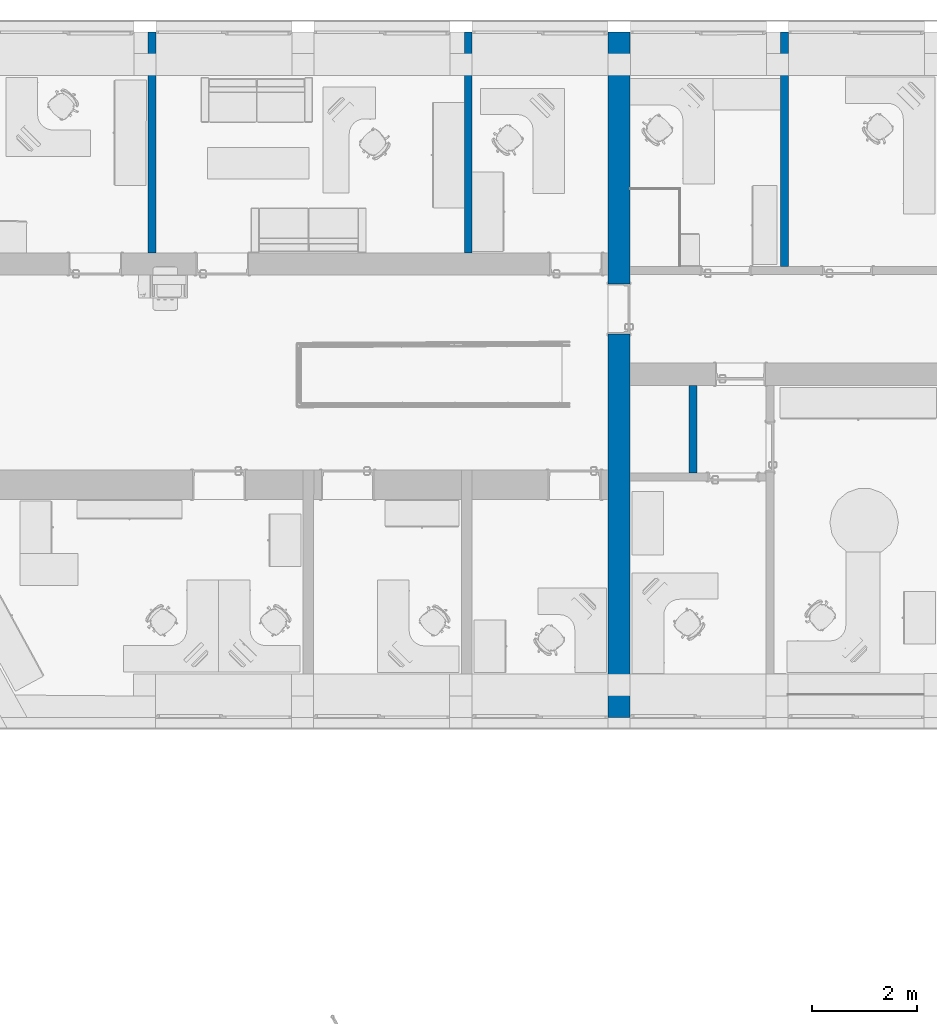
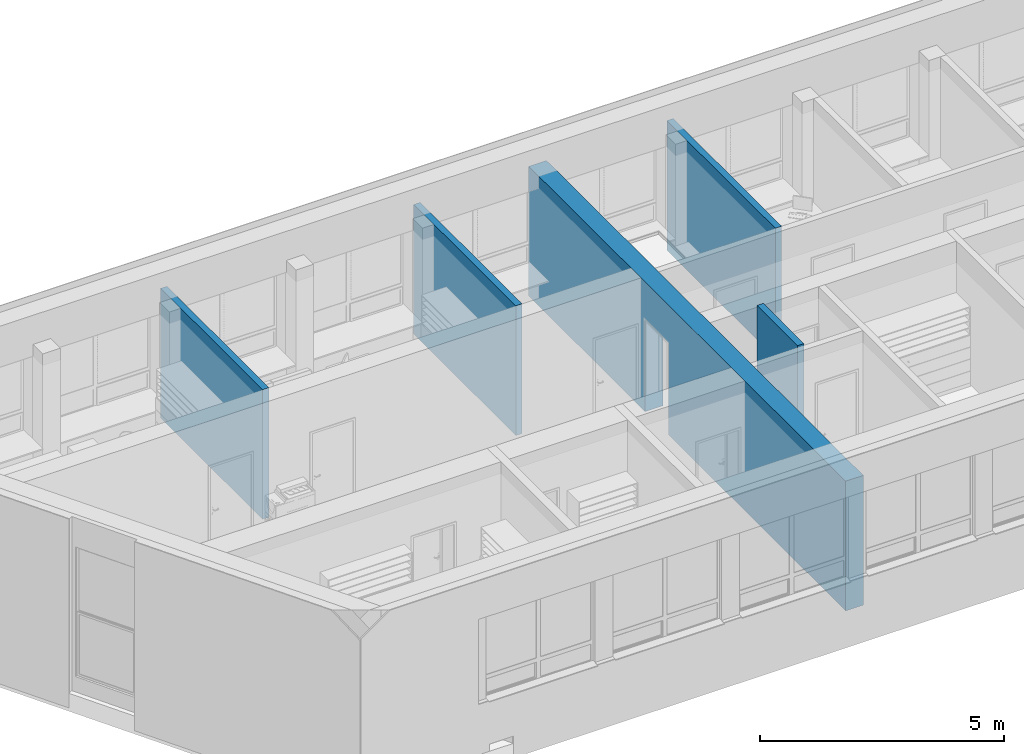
# One storey, part 29 of 194: 5 walls, 1 opening.
"""IFC2X3 building model written with IfcOpenShell, lengths in millimetres."""

from ifc_helpers import new_model, entity, si_unit, converted_unit, derived_unit, money_unit, direction, frame, origin_with_axes, origin_2d_with_axis, place, context, subcontext, project, spatial, polyline, rectangle, outline, extrude, material, layer, layer_set, layer_usage, type_object, element, save


model = new_model("IFC2X3")

# Units and contexts
model_context = context("Model", 3, precision=1e-05, world=origin_with_axes(), true_north=direction((0.0, 1.0)))
body_context = subcontext(model_context, "Body", "Model", "MODEL_VIEW")
ifc_project = project(units=[si_unit("LENGTHUNIT", "METRE", prefix="MILLI"), si_unit("AREAUNIT", "SQUARE_METRE"), si_unit("VOLUMEUNIT", "CUBIC_METRE"), converted_unit("PLANEANGLEUNIT", "DEGREE", entity("IfcPlaneAngleMeasure", 0.0174532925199), si_unit("PLANEANGLEUNIT", "RADIAN"), dimensions=[0, 0, 0, 0, 0, 0, 0]), si_unit("SOLIDANGLEUNIT", "STERADIAN"), money_unit("EUR"), converted_unit("TIMEUNIT", "Year", entity("IfcTimeMeasure", 31556926.0), si_unit("TIMEUNIT", "SECOND"), dimensions=[0, 0, 1, 0, 0, 0, 0]), si_unit("MASSUNIT", "GRAM", prefix="KILO"), si_unit("THERMODYNAMICTEMPERATUREUNIT", "DEGREE_CELSIUS"), si_unit("LUMINOUSINTENSITYUNIT", "LUMEN"), si_unit("ENERGYUNIT", "JOULE", prefix="MEGA"), derived_unit("THERMALCONDUCTANCEUNIT", [(si_unit("POWERUNIT", "WATT"), 1), (si_unit("LENGTHUNIT", "METRE"), -1), (si_unit("THERMODYNAMICTEMPERATUREUNIT", "KELVIN"), -1)]), derived_unit("SPECIFICHEATCAPACITYUNIT", [(si_unit("ENERGYUNIT", "JOULE"), 1), (si_unit("MASSUNIT", "GRAM", prefix="KILO"), -1), (si_unit("THERMODYNAMICTEMPERATUREUNIT", "KELVIN"), -1)]), derived_unit("MASSDENSITYUNIT", [(si_unit("MASSUNIT", "GRAM", prefix="KILO"), 1), (si_unit("VOLUMEUNIT", "CUBIC_METRE"), -1)])], contexts=[model_context])

# Site, building, storey
site_placement = place(None, origin_with_axes())
site = spatial("IfcSite", under=ifc_project, at=site_placement, Name="Site", CompositionType="ELEMENT")
building_placement = place(site_placement, origin_with_axes())
building = spatial("IfcBuilding", under=site, at=building_placement, Name="Building", CompositionType="ELEMENT")
storey_placement = place(building_placement, frame((0.0, 0.0, 3000.0), z_axis=(0.0, 0.0, 1.0), x_axis=(1.0, 0.0, 0.0)))
storey = spatial("IfcBuildingStorey", under=building, at=storey_placement, Name="2 KORRUS", CompositionType="ELEMENT", Elevation=3000.0)

# Wall, opening
ifc_material_1 = material(Name="Kivi -Ol.Olev Konstruktsioon")
ifc_layer_1 = layer(ifc_material_1, 420.0, ventilated="UNKNOWN")
ifc_layer_set_1 = layer_set([ifc_layer_1], Name="ol.olev ss 420")
ifc_layer_usage_1 = layer_usage(ifc_layer_set_1, "AXIS2", "NEGATIVE", 0.0)
wall_type = type_object("IfcWallType", Name="SW - 022", PredefinedType="NOTDEFINED")
wall_1_placement = place(storey_placement, frame((16157.2281674, 71917.3186821, 0.0), z_axis=(0.0, 0.0, 1.0), x_axis=(-2.03379014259e-07, -1.0, 0.0)))
wall_1 = element("IfcWallStandardCase", 1, at=wall_1_placement, inside=storey, type_object=wall_type, material=ifc_layer_usage_1, Name="ol.olev ss 420", context=body_context, shape_type="SweptSolid", body=[
    extrude(outline(polyline([(0.0, -420.0), (13011.3600933, -420.0), (13011.3600933, 0.0), (0.0, 0.0), (0.0, -420.0)])), origin_with_axes(), (0.0, 0.0, 1.0), 3250.0),
])
opening_placement = place(wall_1_placement, frame((5254.87826335, -1.13686837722e-10, 0.0), z_axis=(0.0, 0.0, 1.0), x_axis=(1.0, 0.0, 0.0)))
element("IfcOpeningElement", 2, at=opening_placement, cuts=wall_1, Name="Siseuks * Door 22", context=body_context, shape_type="SweptSolid", body=[
    extrude(rectangle(XDim=950.0, YDim=2300.0, at=origin_2d_with_axis()), frame((0.0, -420.0, 1150.0), z_axis=(0.0, -1.0, 0.0), x_axis=(-1.0, 0.0, 0.0)), (0.0, 0.0, -1.0), 1260.0),
    extrude(rectangle(XDim=1024.0, YDim=2337.0, at=origin_2d_with_axis()), frame((0.0, -420.0, 1168.5), z_axis=(0.0, -1.0, 0.0), x_axis=(-1.0, 0.0, 0.0)), (0.0, 0.0, 1.0), 420.0),
    extrude(rectangle(XDim=1024.0, YDim=2337.0, at=origin_2d_with_axis()), frame((0.0, 0.0, 1168.5), z_axis=(0.0, 1.0, 0.0), x_axis=(-1.0, 0.0, 0.0)), (0.0, 0.0, 1.0), 420.0),
])

# Walls
ifc_layer_2 = layer(ifc_material_1, 150.0, ventilated="UNKNOWN")
ifc_layer_set_2 = layer_set([ifc_layer_2], Name="ol.olev ss 150")
ifc_layer_usage_2 = layer_usage(ifc_layer_set_2, "AXIS2", "NEGATIVE", 0.0)
wall_2_placement = place(storey_placement, frame((19160.017513, 71917.8923441, 0.0), z_axis=(0.0, 0.0, 1.0), x_axis=(0.000614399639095, -0.999999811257, 0.0)))
element("IfcWallStandardCase", 3, at=wall_2_placement, inside=storey, type_object=wall_type, material=ifc_layer_usage_2, Name="ol.olev ss 150", context=body_context, shape_type="SweptSolid", body=[
    extrude(outline(polyline([(0.0, -150.0), (4452.64639318, -150.0), (4452.75467674, 0.0), (0.0, 0.0), (0.0, -150.0)])), origin_with_axes(), (0.0, 0.0, 1.0), 3250.0),
])
ifc_layer_usage_3 = layer_usage(ifc_layer_set_2, "AXIS2", "NEGATIVE", 0.0)
wall_3_placement = place(storey_placement, frame((13161.7903616, 71916.7511332, 0.0), z_axis=(0.0, 0.0, 1.0), x_axis=(0.0, -1.0, 0.0)))
element("IfcWallStandardCase", 4, at=wall_3_placement, inside=storey, type_object=wall_type, material=ifc_layer_usage_3, Name="ol.olev ss 150", context=body_context, shape_type="SweptSolid", body=[
    extrude(outline(polyline([(0.0, -150.0), (4191.35827557, -150.0), (4191.35827557, 0.0), (0.0, 0.0), (0.0, -150.0)])), origin_with_axes(), (0.0, 0.0, 1.0), 3250.0),
])
ifc_layer_usage_4 = layer_usage(ifc_layer_set_2, "AXIS2", "NEGATIVE", 0.0)
wall_4_placement = place(storey_placement, frame((7161.23159434, 71915.6138726, 0.0), z_axis=(0.0, 0.0, 1.0), x_axis=(0.000190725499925, -0.999999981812, 0.0)))
element("IfcWallStandardCase", 5, at=wall_4_placement, inside=storey, type_object=wall_type, material=ifc_layer_usage_4, Name="ol.olev ss 150", context=body_context, shape_type="SweptSolid", body=[
    extrude(outline(polyline([(9.09494701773e-10, -150.0), (4190.19248233, -150.0), (4190.22109115, 0.0), (0.0, 0.0), (9.09494701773e-10, -150.0)])), origin_with_axes(), (0.0, 0.0, 1.0), 3250.0),
])
ifc_material_2 = material(Name="Kivi -  Uus Konstruktsioon")
ifc_layer_3 = layer(ifc_material_2, 150.0, ventilated="UNKNOWN")
ifc_layer_set_3 = layer_set([ifc_layer_3], Name="uus ss 150")
ifc_layer_usage_5 = layer_usage(ifc_layer_set_3, "AXIS2", "POSITIVE", 0.0)
wall_5_placement = place(storey_placement, frame((17276.1801656, 65630.0283559, 0.0), z_axis=(0.0, 0.0, 1.0), x_axis=(0.0, -1.0, 0.0)))
element("IfcWallStandardCase", 6, at=wall_5_placement, inside=storey, type_object=wall_type, material=ifc_layer_usage_5, Name="sahti sein", context=body_context, shape_type="SweptSolid", body=[
    extrude(outline(polyline([(420.0, 0.0), (2083.5562206, 0.0), (2083.5562206, 150.0), (420.0, 150.0), (420.0, 0.0)])), origin_with_axes(), (0.0, 0.0, 1.0), 3294.8304041),
])

save(model, "model.ifc")
